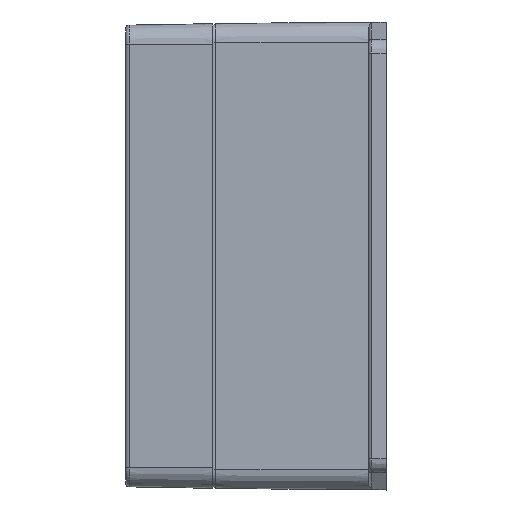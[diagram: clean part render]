
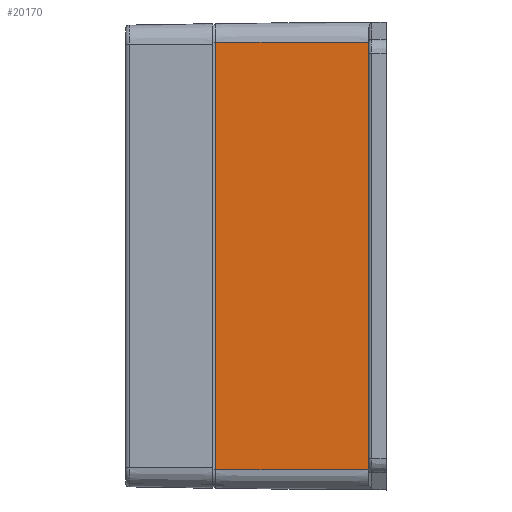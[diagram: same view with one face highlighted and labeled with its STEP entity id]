
A CAD part, left-side view. The second image highlights one B-rep face of the part: STEP entity #20170.
In plain terms, the highlighted planar face has unit normal (-1, 0.009, 0).
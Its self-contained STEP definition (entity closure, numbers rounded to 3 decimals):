
#1709 = DIRECTION ( 'NONE',  ( 0., 0., -1. ) ) ;
#6501 = PLANE ( 'NONE',  #34762 ) ;
#6581 = VECTOR ( 'NONE', #12531, 1000. ) ;
#6731 = DIRECTION ( 'NONE',  ( -1., 0.009, 0. ) ) ;
#10148 = EDGE_CURVE ( 'NONE', #35117, #41006, #45600, .T. ) ;
#11058 = CARTESIAN_POINT ( 'NONE',  ( -80., 0., 73.5 ) ) ;
#12494 = CARTESIAN_POINT ( 'NONE',  ( -80.009, -1., -73.5 ) ) ;
#12531 = DIRECTION ( 'NONE',  ( 0., 0., -1. ) ) ;
#15625 = CARTESIAN_POINT ( 'NONE',  ( -80., 0., 73.5 ) ) ;
#16087 = VERTEX_POINT ( 'NONE', #36786 ) ;
#16663 = EDGE_CURVE ( 'NONE', #41006, #18208, #27525, .T. ) ;
#18208 = VERTEX_POINT ( 'NONE', #12494 ) ;
#19075 = CARTESIAN_POINT ( 'NONE',  ( -80.468, -53.6, 73.5 ) ) ;
#20170 = ADVANCED_FACE ( 'NONE', ( #47715 ), #6501, .T. ) ;
#20815 = ORIENTED_EDGE ( 'NONE', *, *, #43827, .T. ) ;
#23828 = EDGE_LOOP ( 'NONE', ( #24943, #20815, #43457, #41797 ) ) ;
#23844 = CARTESIAN_POINT ( 'NONE',  ( -80.009, -1., 73.5 ) ) ;
#24943 = ORIENTED_EDGE ( 'NONE', *, *, #29274, .T. ) ;
#26076 = CARTESIAN_POINT ( 'NONE',  ( -80.468, -53.6, -73.5 ) ) ;
#26876 = VECTOR ( 'NONE', #31640, 1000. ) ;
#27525 = LINE ( 'NONE', #46587, #26876 ) ;
#29274 = EDGE_CURVE ( 'NONE', #35117, #16087, #33934, .T. ) ;
#31640 = DIRECTION ( 'NONE',  ( 0.009, 1., 0. ) ) ;
#33934 = LINE ( 'NONE', #15625, #45304 ) ;
#34762 = AXIS2_PLACEMENT_3D ( 'NONE', #11058, #6731, #36875 ) ;
#35117 = VERTEX_POINT ( 'NONE', #19075 ) ;
#36786 = CARTESIAN_POINT ( 'NONE',  ( -80.009, -1., 73.5 ) ) ;
#36875 = DIRECTION ( 'NONE',  ( -0.009, -1., 0. ) ) ;
#41006 = VERTEX_POINT ( 'NONE', #26076 ) ;
#41253 = CARTESIAN_POINT ( 'NONE',  ( -80.468, -53.6, 73.5 ) ) ;
#41797 = ORIENTED_EDGE ( 'NONE', *, *, #10148, .F. ) ;
#43457 = ORIENTED_EDGE ( 'NONE', *, *, #16663, .F. ) ;
#43827 = EDGE_CURVE ( 'NONE', #16087, #18208, #46289, .T. ) ;
#45061 = DIRECTION ( 'NONE',  ( 0.009, 1., 0. ) ) ;
#45304 = VECTOR ( 'NONE', #45061, 1000. ) ;
#45600 = LINE ( 'NONE', #41253, #46824 ) ;
#46289 = LINE ( 'NONE', #23844, #6581 ) ;
#46587 = CARTESIAN_POINT ( 'NONE',  ( -80., 0., -73.5 ) ) ;
#46824 = VECTOR ( 'NONE', #1709, 1000. ) ;
#47715 = FACE_OUTER_BOUND ( 'NONE', #23828, .T. ) ;
